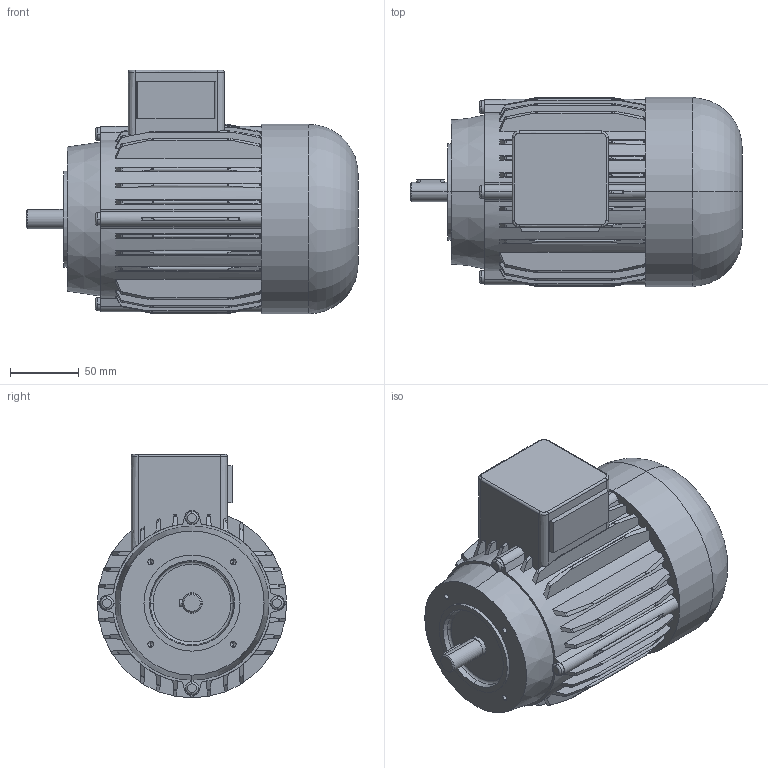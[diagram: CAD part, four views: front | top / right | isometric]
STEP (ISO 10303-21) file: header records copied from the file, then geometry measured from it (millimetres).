
FILE_DESCRIPTION(('OneSpaceDesigner STEP Export'),'2;1');
FILE_NAME('OD7_B14_FT85.stp','2008-04-24T11:36:47',(''),(''),'OneSpace Designer STEP processor (Jan. 2003) for AP214(CD)(Solid Model)','OneSpace Designer 12.01D 09-Jul-2004 (C) CoCreate Software GmbH','');
FILE_SCHEMA(('AUTOMOTIVE_DESIGN_CC2 {1 2 10303 214 -1 1 5 1}'));
Length unit declared in the file: millimetre
Products named in the file (2): OD7_B14_FT85
Assembly tree (1 placements, depth 2):
  OD7_B14_FT85
    OD7_B14_FT85
Bounding box: 242 x 138.02 x 177.52 mm (x, y, z)
Volume: 2791746.5 mm3; surface area: 171027.5 mm2
Topology: 1 solids, 1 shells, 389 faces, 1117 edges, 744 vertices
Faces by surface type: plane 111, cone 110, cylinder 98, torus 60, extrusion 6, bspline 4
Entity records: 30740 total; most frequent: CARTESIAN_POINT 22169, ORIENTED_EDGE 2218, DIRECTION 1212, EDGE_CURVE 1109, VERTEX_POINT 744, AXIS2_PLACEMENT_3D 431, EDGE_LOOP 411, B_SPLINE_CURVE_WITH_KNOTS 407
